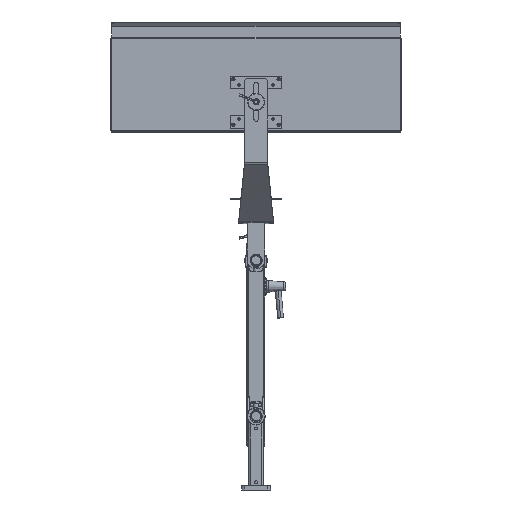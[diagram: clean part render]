
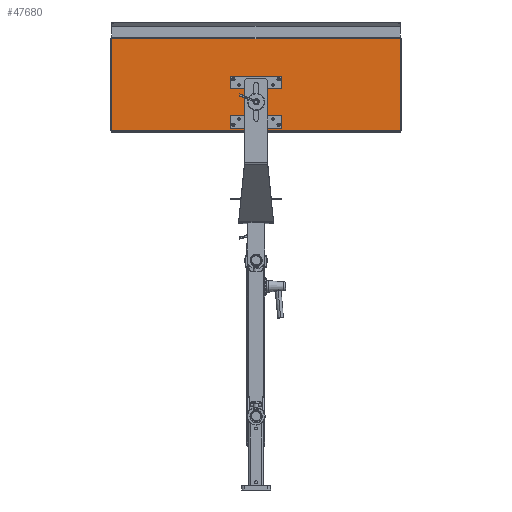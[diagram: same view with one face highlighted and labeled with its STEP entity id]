
A CAD part, front view. The second image highlights one B-rep face of the part: STEP entity #47680.
In plain terms, the highlighted planar face has unit normal (0, -1, 0.008) as drawn and (0, -1, 0) by its records, which use the part's own axes.
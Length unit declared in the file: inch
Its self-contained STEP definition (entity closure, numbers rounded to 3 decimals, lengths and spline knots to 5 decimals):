
#554 = FACE_BOUND ( 'NONE', #69504, .T. ) ;
#1084 = EDGE_CURVE ( 'NONE', #19180, #15009, #41930, .T. ) ;
#1272 = EDGE_LOOP ( 'NONE', ( #64594, #38380 ) ) ;
#3228 = EDGE_CURVE ( 'NONE', #80241, #19180, #86568, .T. ) ;
#3411 = VERTEX_POINT ( 'NONE', #95763 ) ;
#3517 = VERTEX_POINT ( 'NONE', #71709 ) ;
#4968 = ORIENTED_EDGE ( 'NONE', *, *, #1084, .F. ) ;
#5375 = VECTOR ( 'NONE', #46661, 39.37008 ) ;
#6194 = DIRECTION ( 'NONE',  ( 0., -1., 0. ) ) ;
#6674 = CARTESIAN_POINT ( 'NONE',  ( -1.9685, -0.09, 0.4685 ) ) ;
#6814 = VERTEX_POINT ( 'NONE', #38398 ) ;
#10281 = CIRCLE ( 'NONE', #67602, 0.09504 ) ;
#11084 = CARTESIAN_POINT ( 'NONE',  ( -1.9685, -0.09, 0.4685 ) ) ;
#11462 = EDGE_CURVE ( 'NONE', #73399, #80241, #77851, .T. ) ;
#11683 = CIRCLE ( 'NONE', #93557, 0.09504 ) ;
#13360 = DIRECTION ( 'NONE',  ( 0., 0., -1. ) ) ;
#15009 = VERTEX_POINT ( 'NONE', #71233 ) ;
#18254 = DIRECTION ( 'NONE',  ( 0., 0., -1. ) ) ;
#18441 = DIRECTION ( 'NONE',  ( 0., -1., 0. ) ) ;
#18700 = CIRCLE ( 'NONE', #36704, 0.09504 ) ;
#18985 = CARTESIAN_POINT ( 'NONE',  ( 1.9685, -0.09, 0.4685 ) ) ;
#18990 = DIRECTION ( 'NONE',  ( 0., 0., -1. ) ) ;
#19180 = VERTEX_POINT ( 'NONE', #75903 ) ;
#19400 = VERTEX_POINT ( 'NONE', #93795 ) ;
#19665 = AXIS2_PLACEMENT_3D ( 'NONE', #35450, #6194, #60054 ) ;
#22166 = VECTOR ( 'NONE', #55320, 39.37008 ) ;
#24498 = EDGE_CURVE ( 'NONE', #3411, #6814, #66305, .T. ) ;
#25251 = CIRCLE ( 'NONE', #26859, 0.09504 ) ;
#25674 = DIRECTION ( 'NONE',  ( 0., 0., -1. ) ) ;
#25806 = EDGE_CURVE ( 'NONE', #6814, #3411, #18700, .T. ) ;
#25935 = DIRECTION ( 'NONE',  ( 0., -1., 0. ) ) ;
#26010 = DIRECTION ( 'NONE',  ( 0., 0., 1. ) ) ;
#26859 = AXIS2_PLACEMENT_3D ( 'NONE', #70710, #38424, #68669 ) ;
#27275 = CARTESIAN_POINT ( 'NONE',  ( 1.9685, -0.09, 0.37346 ) ) ;
#27276 = CARTESIAN_POINT ( 'NONE',  ( 12.5, -0.09, -4. ) ) ;
#27680 = CARTESIAN_POINT ( 'NONE',  ( -1.9685, -0.09, -3.4685 ) ) ;
#28679 = AXIS2_PLACEMENT_3D ( 'NONE', #64607, #40033, #56453 ) ;
#30157 = AXIS2_PLACEMENT_3D ( 'NONE', #18985, #95877, #25674 ) ;
#30302 = ORIENTED_EDGE ( 'NONE', *, *, #11462, .F. ) ;
#31433 = VECTOR ( 'NONE', #26010, 39.37008 ) ;
#35450 = CARTESIAN_POINT ( 'NONE',  ( -1.9685, -0.09, -3.4685 ) ) ;
#36564 = EDGE_CURVE ( 'NONE', #58812, #19400, #11683, .T. ) ;
#36704 = AXIS2_PLACEMENT_3D ( 'NONE', #6674, #67717, #13360 ) ;
#38380 = ORIENTED_EDGE ( 'NONE', *, *, #24498, .F. ) ;
#38398 = CARTESIAN_POINT ( 'NONE',  ( -1.9685, -0.09, 0.56354 ) ) ;
#38424 = DIRECTION ( 'NONE',  ( 0., -1., 0. ) ) ;
#40033 = DIRECTION ( 'NONE',  ( 0., -1., 0. ) ) ;
#40522 = FACE_BOUND ( 'NONE', #1272, .T. ) ;
#40602 = EDGE_LOOP ( 'NONE', ( #30302, #71524, #4968, #60291 ) ) ;
#41930 = LINE ( 'NONE', #89055, #31433 ) ;
#42770 = ORIENTED_EDGE ( 'NONE', *, *, #45053, .F. ) ;
#43813 = ORIENTED_EDGE ( 'NONE', *, *, #36564, .F. ) ;
#45025 = EDGE_CURVE ( 'NONE', #73399, #15009, #63644, .T. ) ;
#45053 = EDGE_CURVE ( 'NONE', #3517, #47434, #10281, .T. ) ;
#45301 = EDGE_CURVE ( 'NONE', #81836, #72973, #66179, .T. ) ;
#45709 = EDGE_CURVE ( 'NONE', #72973, #81836, #25251, .T. ) ;
#46619 = CARTESIAN_POINT ( 'NONE',  ( 12.5, -0.09, -4. ) ) ;
#46661 = DIRECTION ( 'NONE',  ( -1., 0., 0. ) ) ;
#46952 = CIRCLE ( 'NONE', #95979, 0.09504 ) ;
#47233 = ORIENTED_EDGE ( 'NONE', *, *, #45301, .F. ) ;
#47434 = VERTEX_POINT ( 'NONE', #69270 ) ;
#47680 = ADVANCED_FACE ( 'NONE', ( #78984, #70800, #554, #40522, #63144 ), #94368, .T. ) ;
#51143 = CARTESIAN_POINT ( 'NONE',  ( -1.9685, -0.09, -3.56354 ) ) ;
#54981 = CARTESIAN_POINT ( 'NONE',  ( 1.9685, -0.09, -3.4685 ) ) ;
#55320 = DIRECTION ( 'NONE',  ( 0., 0., -1. ) ) ;
#55976 = DIRECTION ( 'NONE',  ( 0., -1., 0. ) ) ;
#56453 = DIRECTION ( 'NONE',  ( 0., 0., -1. ) ) ;
#58812 = VERTEX_POINT ( 'NONE', #51143 ) ;
#60054 = DIRECTION ( 'NONE',  ( 0., 0., -1. ) ) ;
#60291 = ORIENTED_EDGE ( 'NONE', *, *, #3228, .F. ) ;
#61644 = DIRECTION ( 'NONE',  ( -1., 0., 0. ) ) ;
#62655 = CARTESIAN_POINT ( 'NONE',  ( 12.5, -0.09, 3.968 ) ) ;
#63144 = FACE_OUTER_BOUND ( 'NONE', #40602, .T. ) ;
#63644 = LINE ( 'NONE', #62655, #64289 ) ;
#64289 = VECTOR ( 'NONE', #61644, 39.37008 ) ;
#64554 = EDGE_CURVE ( 'NONE', #47434, #3517, #46952, .T. ) ;
#64592 = CARTESIAN_POINT ( 'NONE',  ( 1.9685, -0.09, -3.4685 ) ) ;
#64594 = ORIENTED_EDGE ( 'NONE', *, *, #25806, .F. ) ;
#64607 = CARTESIAN_POINT ( 'NONE',  ( 0., -0.09, 0. ) ) ;
#64798 = ORIENTED_EDGE ( 'NONE', *, *, #93509, .F. ) ;
#66179 = CIRCLE ( 'NONE', #30157, 0.09504 ) ;
#66305 = CIRCLE ( 'NONE', #77783, 0.09504 ) ;
#67602 = AXIS2_PLACEMENT_3D ( 'NONE', #54981, #55976, #92872 ) ;
#67717 = DIRECTION ( 'NONE',  ( 0., -1., 0. ) ) ;
#68133 = ORIENTED_EDGE ( 'NONE', *, *, #45709, .F. ) ;
#68669 = DIRECTION ( 'NONE',  ( 0., 0., -1. ) ) ;
#69270 = CARTESIAN_POINT ( 'NONE',  ( 1.9685, -0.09, -3.56354 ) ) ;
#69504 = EDGE_LOOP ( 'NONE', ( #68133, #47233 ) ) ;
#70710 = CARTESIAN_POINT ( 'NONE',  ( 1.9685, -0.09, 0.4685 ) ) ;
#70800 = FACE_BOUND ( 'NONE', #89654, .T. ) ;
#71233 = CARTESIAN_POINT ( 'NONE',  ( -12.5, -0.09, 3.968 ) ) ;
#71524 = ORIENTED_EDGE ( 'NONE', *, *, #45025, .T. ) ;
#71709 = CARTESIAN_POINT ( 'NONE',  ( 1.9685, -0.09, -3.37346 ) ) ;
#72973 = VERTEX_POINT ( 'NONE', #97499 ) ;
#73399 = VERTEX_POINT ( 'NONE', #96860 ) ;
#75903 = CARTESIAN_POINT ( 'NONE',  ( -12.5, -0.09, -4. ) ) ;
#77783 = AXIS2_PLACEMENT_3D ( 'NONE', #11084, #25935, #18254 ) ;
#77851 = LINE ( 'NONE', #46619, #22166 ) ;
#78984 = FACE_BOUND ( 'NONE', #88523, .T. ) ;
#80241 = VERTEX_POINT ( 'NONE', #27276 ) ;
#80981 = DIRECTION ( 'NONE',  ( 0., 0., -1. ) ) ;
#81836 = VERTEX_POINT ( 'NONE', #27275 ) ;
#86568 = LINE ( 'NONE', #100440, #5375 ) ;
#88523 = EDGE_LOOP ( 'NONE', ( #64798, #43813 ) ) ;
#89055 = CARTESIAN_POINT ( 'NONE',  ( -12.5, -0.09, -4. ) ) ;
#89654 = EDGE_LOOP ( 'NONE', ( #42770, #90938 ) ) ;
#90938 = ORIENTED_EDGE ( 'NONE', *, *, #64554, .F. ) ;
#92872 = DIRECTION ( 'NONE',  ( 0., 0., -1. ) ) ;
#93509 = EDGE_CURVE ( 'NONE', #19400, #58812, #98171, .T. ) ;
#93557 = AXIS2_PLACEMENT_3D ( 'NONE', #27680, #97408, #18990 ) ;
#93795 = CARTESIAN_POINT ( 'NONE',  ( -1.9685, -0.09, -3.37346 ) ) ;
#94368 = PLANE ( 'NONE',  #28679 ) ;
#95763 = CARTESIAN_POINT ( 'NONE',  ( -1.9685, -0.09, 0.37346 ) ) ;
#95877 = DIRECTION ( 'NONE',  ( 0., -1., 0. ) ) ;
#95979 = AXIS2_PLACEMENT_3D ( 'NONE', #64592, #18441, #80981 ) ;
#96860 = CARTESIAN_POINT ( 'NONE',  ( 12.5, -0.09, 3.968 ) ) ;
#97408 = DIRECTION ( 'NONE',  ( 0., -1., 0. ) ) ;
#97499 = CARTESIAN_POINT ( 'NONE',  ( 1.9685, -0.09, 0.56354 ) ) ;
#98171 = CIRCLE ( 'NONE', #19665, 0.09504 ) ;
#100440 = CARTESIAN_POINT ( 'NONE',  ( 12.5, -0.09, -4. ) ) ;
